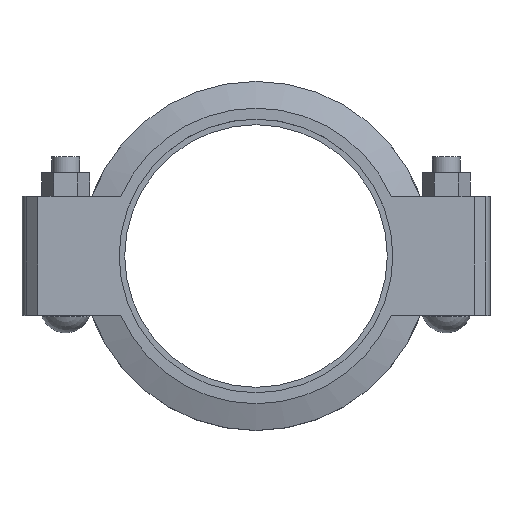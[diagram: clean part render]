
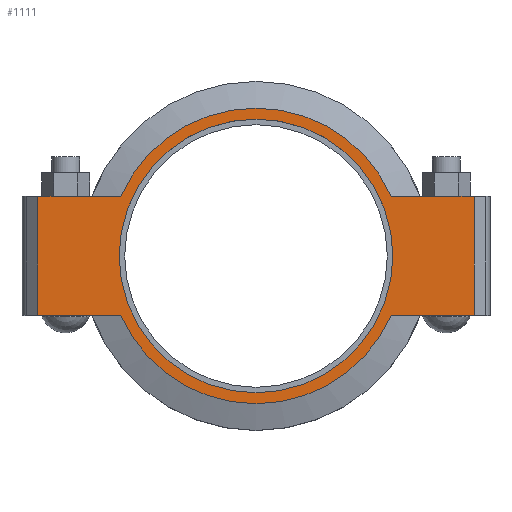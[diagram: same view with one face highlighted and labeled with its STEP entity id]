
A CAD part, top view. The second image highlights one B-rep face of the part: STEP entity #1111.
In plain terms, the highlighted planar face has unit normal (0, 0, 1).
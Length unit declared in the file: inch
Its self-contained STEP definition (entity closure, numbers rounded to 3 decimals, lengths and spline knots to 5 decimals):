
#75=FACE_BOUND('',#226,.T.);
#105=PLANE('',#1226);
#153=FACE_OUTER_BOUND('',#225,.T.);
#225=EDGE_LOOP('',(#888,#889,#890,#891,#892,#893,#894,#895));
#226=EDGE_LOOP('',(#896));
#298=LINE('',#1752,#385);
#313=LINE('',#1811,#400);
#321=LINE('',#1841,#408);
#323=LINE('',#1844,#410);
#324=LINE('',#1849,#411);
#325=LINE('',#1850,#412);
#385=VECTOR('',#1433,0.3937);
#400=VECTOR('',#1468,0.3937);
#408=VECTOR('',#1488,0.3937);
#410=VECTOR('',#1492,0.3937);
#411=VECTOR('',#1497,0.3937);
#412=VECTOR('',#1498,0.3937);
#437=CIRCLE('',#1183,4.3125);
#453=CIRCLE('',#1227,4.6565);
#454=CIRCLE('',#1228,4.6565);
#480=VERTEX_POINT('',#1644);
#515=VERTEX_POINT('',#1749);
#516=VERTEX_POINT('',#1751);
#537=VERTEX_POINT('',#1806);
#538=VERTEX_POINT('',#1810);
#547=VERTEX_POINT('',#1836);
#548=VERTEX_POINT('',#1840);
#549=VERTEX_POINT('',#1846);
#550=VERTEX_POINT('',#1848);
#581=EDGE_CURVE('',#480,#480,#437,.T.);
#632=EDGE_CURVE('',#516,#515,#298,.T.);
#657=EDGE_CURVE('',#538,#537,#313,.T.);
#670=EDGE_CURVE('',#548,#547,#321,.T.);
#672=EDGE_CURVE('',#548,#515,#323,.T.);
#673=EDGE_CURVE('',#547,#549,#453,.T.);
#674=EDGE_CURVE('',#549,#550,#324,.T.);
#675=EDGE_CURVE('',#538,#550,#325,.T.);
#676=EDGE_CURVE('',#537,#516,#454,.T.);
#888=ORIENTED_EDGE('',*,*,#672,.F.);
#889=ORIENTED_EDGE('',*,*,#670,.T.);
#890=ORIENTED_EDGE('',*,*,#673,.T.);
#891=ORIENTED_EDGE('',*,*,#674,.T.);
#892=ORIENTED_EDGE('',*,*,#675,.F.);
#893=ORIENTED_EDGE('',*,*,#657,.T.);
#894=ORIENTED_EDGE('',*,*,#676,.T.);
#895=ORIENTED_EDGE('',*,*,#632,.T.);
#896=ORIENTED_EDGE('',*,*,#581,.T.);
#1111=ADVANCED_FACE('',(#153,#75),#105,.T.);
#1183=AXIS2_PLACEMENT_3D('',#1646,#1337,#1338);
#1226=AXIS2_PLACEMENT_3D('',#1845,#1493,#1494);
#1227=AXIS2_PLACEMENT_3D('',#1847,#1495,#1496);
#1228=AXIS2_PLACEMENT_3D('',#1851,#1499,#1500);
#1337=DIRECTION('center_axis',(0.,0.,-1.));
#1338=DIRECTION('ref_axis',(1.,0.,0.));
#1433=DIRECTION('',(1.,0.,0.));
#1468=DIRECTION('',(1.,0.,0.));
#1488=DIRECTION('',(-1.,0.,0.));
#1492=DIRECTION('',(0.,-1.,0.));
#1493=DIRECTION('center_axis',(0.,0.,1.));
#1494=DIRECTION('ref_axis',(-1.,0.,0.));
#1495=DIRECTION('center_axis',(0.,0.,1.));
#1496=DIRECTION('ref_axis',(1.,0.,0.));
#1497=DIRECTION('',(-1.,0.,0.));
#1498=DIRECTION('',(0.,1.,0.));
#1499=DIRECTION('center_axis',(0.,0.,1.));
#1500=DIRECTION('ref_axis',(1.,0.,0.));
#1644=CARTESIAN_POINT('',(-4.3125,0.,1.25));
#1646=CARTESIAN_POINT('Origin',(0.,0.,1.25));
#1749=CARTESIAN_POINT('',(6.875,-1.875,1.25));
#1751=CARTESIAN_POINT('',(4.26232,-1.875,1.25));
#1752=CARTESIAN_POINT('',(-7.375,-1.875,1.25));
#1806=CARTESIAN_POINT('',(-4.26232,-1.875,1.25));
#1810=CARTESIAN_POINT('',(-6.875,-1.875,1.25));
#1811=CARTESIAN_POINT('',(-7.375,-1.875,1.25));
#1836=CARTESIAN_POINT('',(4.26232,1.875,1.25));
#1840=CARTESIAN_POINT('',(6.875,1.875,1.25));
#1841=CARTESIAN_POINT('',(7.375,1.875,1.25));
#1844=CARTESIAN_POINT('',(6.875,-0.9375,1.25));
#1845=CARTESIAN_POINT('Origin',(0.,0.,
1.25));
#1846=CARTESIAN_POINT('',(-4.26232,1.875,1.25));
#1847=CARTESIAN_POINT('Origin',(0.,0.,1.25));
#1848=CARTESIAN_POINT('',(-6.875,1.875,1.25));
#1849=CARTESIAN_POINT('',(7.375,1.875,1.25));
#1850=CARTESIAN_POINT('',(-6.875,0.9375,1.25));
#1851=CARTESIAN_POINT('Origin',(0.,0.,1.25));
